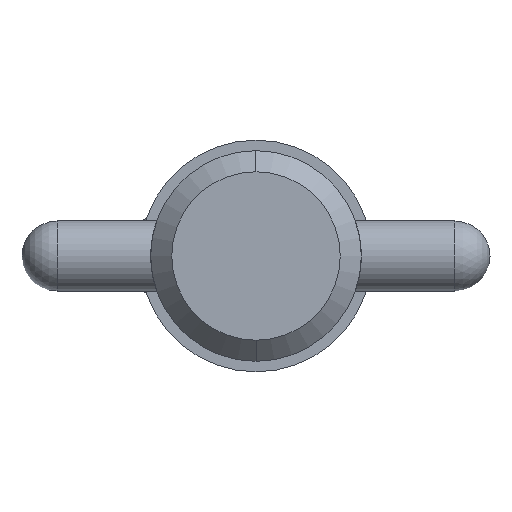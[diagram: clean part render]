
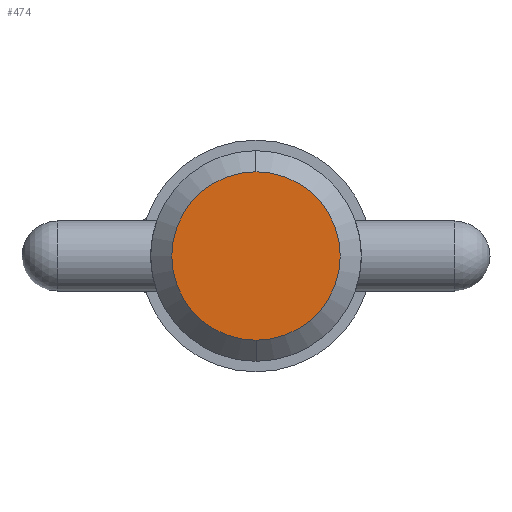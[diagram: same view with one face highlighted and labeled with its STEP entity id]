
A CAD part, left-side view. The second image highlights one B-rep face of the part: STEP entity #474.
In plain terms, the highlighted planar face has unit normal (-1, 0, 0).
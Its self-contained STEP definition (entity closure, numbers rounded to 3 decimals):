
#60 = VERTEX_POINT ( 'NONE', #342 ) ;
#238 = AXIS2_PLACEMENT_3D ( 'NONE', #1003, #365, #624 ) ;
#249 = DIRECTION ( 'NONE',  ( 0., 0., 1. ) ) ;
#265 = VERTEX_POINT ( 'NONE', #610 ) ;
#281 = ORIENTED_EDGE ( 'NONE', *, *, #596, .F. ) ;
#322 = PLANE ( 'NONE',  #364 ) ;
#342 = CARTESIAN_POINT ( 'NONE',  ( 0., 0., -5.716 ) ) ;
#364 = AXIS2_PLACEMENT_3D ( 'NONE', #917, #508, #249 ) ;
#365 = DIRECTION ( 'NONE',  ( 1., 0., 0. ) ) ;
#444 = ORIENTED_EDGE ( 'NONE', *, *, #814, .F. ) ;
#473 = DIRECTION ( 'NONE',  ( 1., 0., 0. ) ) ;
#474 = ADVANCED_FACE ( 'NONE', ( #587 ), #322, .T. ) ;
#479 = AXIS2_PLACEMENT_3D ( 'NONE', #893, #473, #485 ) ;
#485 = DIRECTION ( 'NONE',  ( 0., 0., -1. ) ) ;
#508 = DIRECTION ( 'NONE',  ( -1., 0., 0. ) ) ;
#567 = CIRCLE ( 'NONE', #238, 5.716 ) ;
#587 = FACE_OUTER_BOUND ( 'NONE', #876, .T. ) ;
#596 = EDGE_CURVE ( 'NONE', #265, #60, #567, .T. ) ;
#610 = CARTESIAN_POINT ( 'NONE',  ( 0., 0., 5.716 ) ) ;
#624 = DIRECTION ( 'NONE',  ( 0., 0., -1. ) ) ;
#814 = EDGE_CURVE ( 'NONE', #60, #265, #939, .T. ) ;
#876 = EDGE_LOOP ( 'NONE', ( #444, #281 ) ) ;
#893 = CARTESIAN_POINT ( 'NONE',  ( 0., 0., 0. ) ) ;
#917 = CARTESIAN_POINT ( 'NONE',  ( 0., 0., 0. ) ) ;
#939 = CIRCLE ( 'NONE', #479, 5.716 ) ;
#1003 = CARTESIAN_POINT ( 'NONE',  ( 0., 0., 0. ) ) ;
